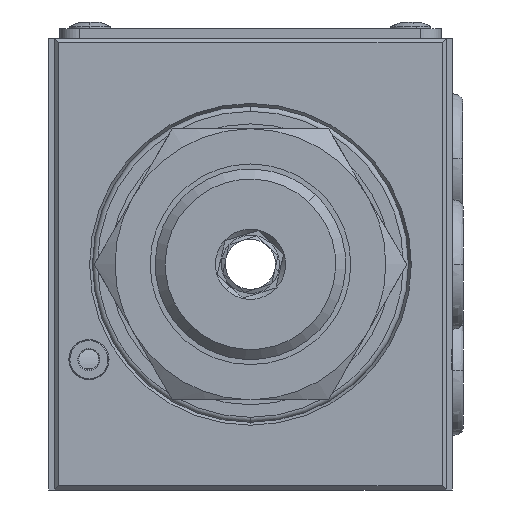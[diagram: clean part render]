
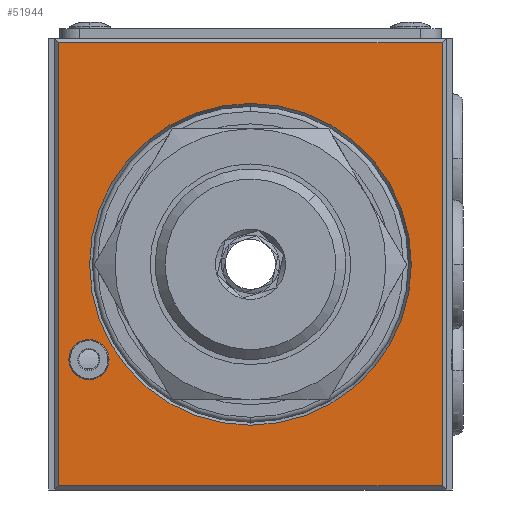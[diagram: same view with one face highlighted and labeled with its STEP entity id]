
A CAD part, left-side view. The second image highlights one B-rep face of the part: STEP entity #51944.
In plain terms, the highlighted planar face has unit normal (-1, 0, 0).
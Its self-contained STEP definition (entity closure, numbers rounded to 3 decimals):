
#509 = EDGE_CURVE ( 'NONE', #16363, #31805, #55976, .T. ) ;
#989 = CARTESIAN_POINT ( 'NONE',  ( -57.8, 19.1, 0.4 ) ) ;
#1113 = DIRECTION ( 'NONE',  ( -1., 0., 0. ) ) ;
#1405 = EDGE_CURVE ( 'NONE', #45728, #16363, #5717, .T. ) ;
#2390 = CARTESIAN_POINT ( 'NONE',  ( -57.8, 0., 38.539 ) ) ;
#2509 = CARTESIAN_POINT ( 'NONE',  ( -57.8, 20.1, 0.4 ) ) ;
#2778 = PLANE ( 'NONE',  #18899 ) ;
#4244 = CARTESIAN_POINT ( 'NONE',  ( -57.8, -19.1, 45. ) ) ;
#4299 = ORIENTED_EDGE ( 'NONE', *, *, #30152, .F. ) ;
#4471 = CARTESIAN_POINT ( 'NONE',  ( -57.8, 0., 6.461 ) ) ;
#5717 = LINE ( 'NONE', #2509, #28383 ) ;
#5898 = CARTESIAN_POINT ( 'NONE',  ( -57.8, 14.1, 13. ) ) ;
#6069 = DIRECTION ( 'NONE',  ( 0., 1., 0. ) ) ;
#7194 = CARTESIAN_POINT ( 'NONE',  ( -57.8, 18.1, 13. ) ) ;
#9016 = VECTOR ( 'NONE', #6069, 1000. ) ;
#9237 = EDGE_CURVE ( 'NONE', #10066, #55270, #33531, .T. ) ;
#9879 = EDGE_LOOP ( 'NONE', ( #38300, #18616, #14321, #36674 ) ) ;
#10066 = VERTEX_POINT ( 'NONE', #2390 ) ;
#10069 = DIRECTION ( 'NONE',  ( 0., 0., -1. ) ) ;
#10348 = AXIS2_PLACEMENT_3D ( 'NONE', #55213, #1113, #50108 ) ;
#10597 = CARTESIAN_POINT ( 'NONE',  ( -57.8, 19.5, 44.6 ) ) ;
#11138 = EDGE_CURVE ( 'NONE', #31805, #32333, #49959, .T. ) ;
#11505 = AXIS2_PLACEMENT_3D ( 'NONE', #44234, #57613, #40076 ) ;
#12832 = CARTESIAN_POINT ( 'NONE',  ( -57.8, -19.1, 0.4 ) ) ;
#13920 = EDGE_CURVE ( 'NONE', #32333, #45728, #43850, .T. ) ;
#14321 = ORIENTED_EDGE ( 'NONE', *, *, #509, .T. ) ;
#15366 = EDGE_LOOP ( 'NONE', ( #20703, #19530 ) ) ;
#16363 = VERTEX_POINT ( 'NONE', #12832 ) ;
#18616 = ORIENTED_EDGE ( 'NONE', *, *, #1405, .T. ) ;
#18899 = AXIS2_PLACEMENT_3D ( 'NONE', #48406, #39927, #21599 ) ;
#19530 = ORIENTED_EDGE ( 'NONE', *, *, #45125, .T. ) ;
#19565 = CARTESIAN_POINT ( 'NONE',  ( -57.8, -19.1, 44.6 ) ) ;
#19999 = CARTESIAN_POINT ( 'NONE',  ( -57.8, 19.1, 0. ) ) ;
#20703 = ORIENTED_EDGE ( 'NONE', *, *, #9237, .T. ) ;
#21467 = ORIENTED_EDGE ( 'NONE', *, *, #22038, .F. ) ;
#21599 = DIRECTION ( 'NONE',  ( 0., 0., -1. ) ) ;
#22038 = EDGE_CURVE ( 'NONE', #44793, #48350, #45630, .T. ) ;
#22667 = DIRECTION ( 'NONE',  ( 0., 0., -1. ) ) ;
#23032 = DIRECTION ( 'NONE',  ( 0., 0., 1. ) ) ;
#24284 = CARTESIAN_POINT ( 'NONE',  ( -57.8, 0., 22.5 ) ) ;
#26454 = CARTESIAN_POINT ( 'NONE',  ( -57.8, 0., 22.5 ) ) ;
#26932 = VECTOR ( 'NONE', #51476, 1000. ) ;
#27793 = CIRCLE ( 'NONE', #44583, 16.039 ) ;
#28383 = VECTOR ( 'NONE', #56786, 1000. ) ;
#30152 = EDGE_CURVE ( 'NONE', #48350, #44793, #51037, .T. ) ;
#31805 = VERTEX_POINT ( 'NONE', #19565 ) ;
#32333 = VERTEX_POINT ( 'NONE', #58039 ) ;
#33531 = CIRCLE ( 'NONE', #36817, 16.039 ) ;
#35200 = FACE_BOUND ( 'NONE', #36666, .T. ) ;
#36666 = EDGE_LOOP ( 'NONE', ( #21467, #4299 ) ) ;
#36674 = ORIENTED_EDGE ( 'NONE', *, *, #11138, .T. ) ;
#36817 = AXIS2_PLACEMENT_3D ( 'NONE', #24284, #55418, #10069 ) ;
#38300 = ORIENTED_EDGE ( 'NONE', *, *, #13920, .T. ) ;
#39927 = DIRECTION ( 'NONE',  ( 1., 0., 0. ) ) ;
#40076 = DIRECTION ( 'NONE',  ( 0., -1., 0. ) ) ;
#41877 = VECTOR ( 'NONE', #23032, 1000. ) ;
#43850 = LINE ( 'NONE', #19999, #26932 ) ;
#44234 = CARTESIAN_POINT ( 'NONE',  ( -57.8, 16.1, 13. ) ) ;
#44583 = AXIS2_PLACEMENT_3D ( 'NONE', #26454, #53977, #22667 ) ;
#44793 = VERTEX_POINT ( 'NONE', #5898 ) ;
#45125 = EDGE_CURVE ( 'NONE', #55270, #10066, #27793, .T. ) ;
#45630 = CIRCLE ( 'NONE', #10348, 2. ) ;
#45728 = VERTEX_POINT ( 'NONE', #989 ) ;
#47129 = FACE_OUTER_BOUND ( 'NONE', #9879, .T. ) ;
#47831 = FACE_BOUND ( 'NONE', #15366, .T. ) ;
#48350 = VERTEX_POINT ( 'NONE', #7194 ) ;
#48406 = CARTESIAN_POINT ( 'NONE',  ( -57.8, 20.1, 45. ) ) ;
#49959 = LINE ( 'NONE', #10597, #9016 ) ;
#50108 = DIRECTION ( 'NONE',  ( 0., -1., 0. ) ) ;
#51037 = CIRCLE ( 'NONE', #11505, 2. ) ;
#51476 = DIRECTION ( 'NONE',  ( 0., 0., -1. ) ) ;
#51944 = ADVANCED_FACE ( 'NONE', ( #35200, #47831, #47129 ), #2778, .F. ) ;
#53977 = DIRECTION ( 'NONE',  ( 1., 0., 0. ) ) ;
#55213 = CARTESIAN_POINT ( 'NONE',  ( -57.8, 16.1, 13. ) ) ;
#55270 = VERTEX_POINT ( 'NONE', #4471 ) ;
#55418 = DIRECTION ( 'NONE',  ( 1., 0., 0. ) ) ;
#55976 = LINE ( 'NONE', #4244, #41877 ) ;
#56786 = DIRECTION ( 'NONE',  ( 0., -1., 0. ) ) ;
#57613 = DIRECTION ( 'NONE',  ( -1., 0., 0. ) ) ;
#58039 = CARTESIAN_POINT ( 'NONE',  ( -57.8, 19.1, 44.6 ) ) ;
